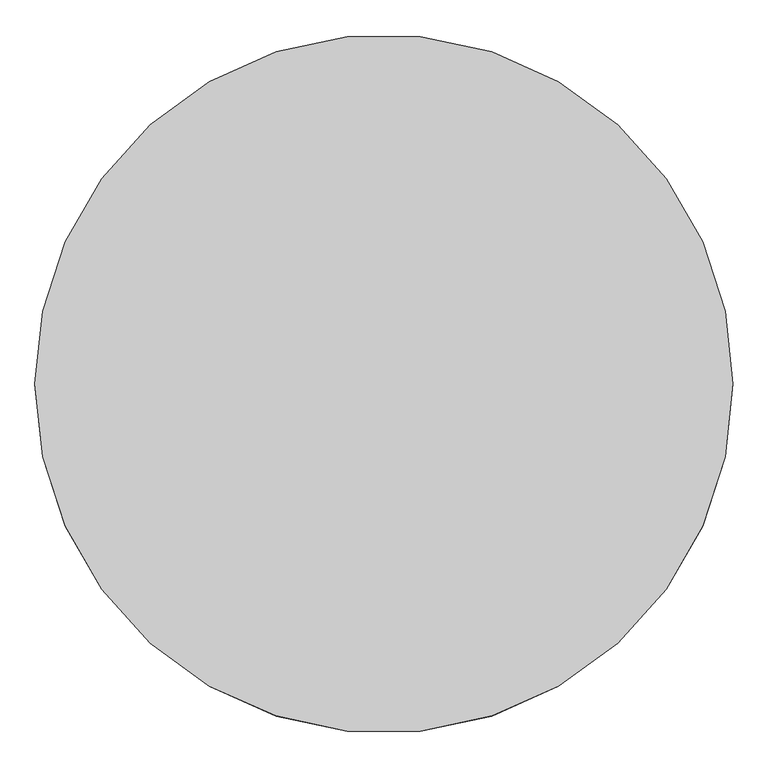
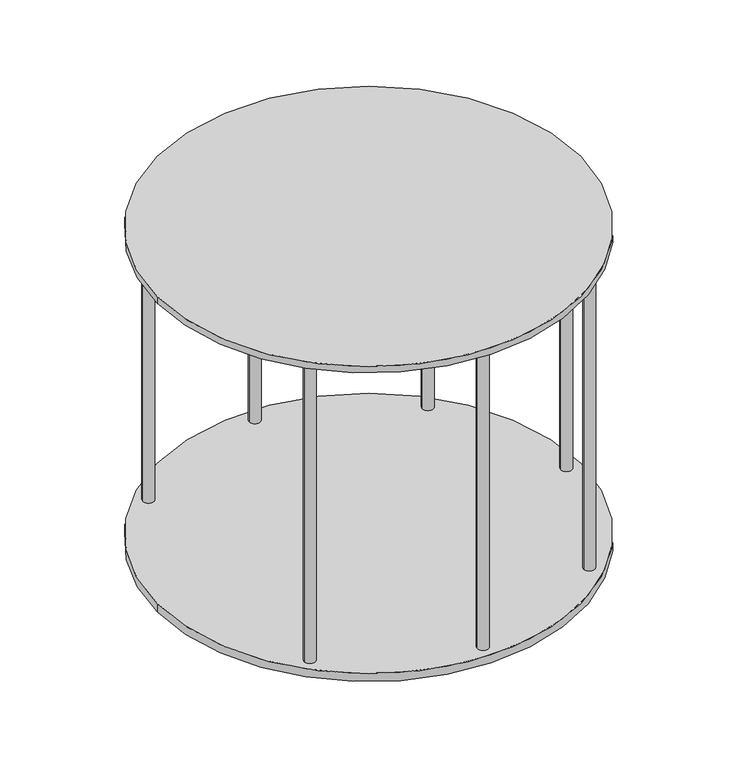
"""IFC4 building model written with IfcOpenShell, lengths in millimetres: proxy geometry, Pavillon, Unterstand, Schuppen und dgl. : Pavillon, Unterstand, Schuppen und dgl.."""

from ifc_helpers import new_model, si_unit, point, frame, frame_2d, origin, origin_with_axes, origin_2d, place, context, project, spatial, circle_curve, trimmed, segment, composite_curve, outline, extrude, source, transform, mapped, element, save


def entourage_0a1c0cec(model_context):
    return source(origin(), model_context, "Body", "SweptSolid", [
        extrude(outline(composite_curve([segment(trimmed(circle_curve(origin_2d(), 1500.0), [point((-1500.0, 0.0))], [point((1500.0, 0.0))], False, "CARTESIAN"), True, "CONTINUOUS"), segment(trimmed(circle_curve(origin_2d(), 1500.0), [point((1500.0, 0.0))], [point((-1500.0, 0.0))], False, "CARTESIAN"), True, "CONTINUOUS")], self_intersect=False)), frame((0.0, 0.0, -60.4662296), z_axis=(0.0, 0.0, 1.0), x_axis=(1.0, 0.0, 0.0)), (0.0, 0.0, 1.0), 60.4662296),
        extrude(outline(composite_curve([segment(trimmed(circle_curve(frame_2d((0.0, -1400.0)), 40.0), [point((-40.0, -1400.0))], [point((40.0, -1400.0))], False, "CARTESIAN"), True, "CONTINUOUS"), segment(trimmed(circle_curve(frame_2d((0.0, -1400.0)), 40.0), [point((40.0, -1400.0))], [point((-40.0, -1400.0))], False, "CARTESIAN"), True, "CONTINUOUS")], self_intersect=False)), origin_with_axes(), (0.0, 0.0, 1.0), 2251.4518572),
        extrude(outline(composite_curve([segment(trimmed(circle_curve(frame_2d((989.9494937, -989.9494937)), 40.0), [point((949.9494937, -989.9494937))], [point((1029.9494937, -989.9494937))], False, "CARTESIAN"), True, "CONTINUOUS"), segment(trimmed(circle_curve(frame_2d((989.9494937, -989.9494937)), 40.0), [point((1029.9494937, -989.9494937))], [point((949.9494937, -989.9494937))], False, "CARTESIAN"), True, "CONTINUOUS")], self_intersect=False)), origin_with_axes(), (0.0, 0.0, 1.0), 2251.4518572),
        extrude(outline(composite_curve([segment(trimmed(circle_curve(frame_2d((1400.0, 0.0)), 40.0), [point((1360.0, 0.0))], [point((1440.0, 0.0))], False, "CARTESIAN"), True, "CONTINUOUS"), segment(trimmed(circle_curve(frame_2d((1400.0, 0.0)), 40.0), [point((1440.0, 0.0))], [point((1360.0, 0.0))], False, "CARTESIAN"), True, "CONTINUOUS")], self_intersect=False)), origin_with_axes(), (0.0, 0.0, 1.0), 2251.4518572),
        extrude(outline(composite_curve([segment(trimmed(circle_curve(frame_2d((989.9494937, 989.9494937)), 40.0), [point((949.9494937, 989.9494937))], [point((1029.9494937, 989.9494937))], False, "CARTESIAN"), True, "CONTINUOUS"), segment(trimmed(circle_curve(frame_2d((989.9494937, 989.9494937)), 40.0), [point((1029.9494937, 989.9494937))], [point((949.9494937, 989.9494937))], False, "CARTESIAN"), True, "CONTINUOUS")], self_intersect=False)), origin_with_axes(), (0.0, 0.0, 1.0), 2251.4518572),
        extrude(outline(composite_curve([segment(trimmed(circle_curve(frame_2d((0.0, 1400.0)), 40.0), [point((-40.0, 1400.0))], [point((40.0, 1400.0))], False, "CARTESIAN"), True, "CONTINUOUS"), segment(trimmed(circle_curve(frame_2d((0.0, 1400.0)), 40.0), [point((40.0, 1400.0))], [point((-40.0, 1400.0))], False, "CARTESIAN"), True, "CONTINUOUS")], self_intersect=False)), origin_with_axes(), (0.0, 0.0, 1.0), 2251.4518572),
        extrude(outline(composite_curve([segment(trimmed(circle_curve(frame_2d((-989.9494937, 989.9494937)), 40.0), [point((-1029.9494937, 989.9494937))], [point((-949.9494937, 989.9494937))], False, "CARTESIAN"), True, "CONTINUOUS"), segment(trimmed(circle_curve(frame_2d((-989.9494937, 989.9494937)), 40.0), [point((-949.9494937, 989.9494937))], [point((-1029.9494937, 989.9494937))], False, "CARTESIAN"), True, "CONTINUOUS")], self_intersect=False)), origin_with_axes(), (0.0, 0.0, 1.0), 2251.4518572),
        extrude(outline(composite_curve([segment(trimmed(circle_curve(frame_2d((-989.9494937, -989.9494937)), 40.0), [point((-1029.9494937, -989.9494937))], [point((-949.9494937, -989.9494937))], False, "CARTESIAN"), True, "CONTINUOUS"), segment(trimmed(circle_curve(frame_2d((-989.9494937, -989.9494937)), 40.0), [point((-949.9494937, -989.9494937))], [point((-1029.9494937, -989.9494937))], False, "CARTESIAN"), True, "CONTINUOUS")], self_intersect=False)), origin_with_axes(), (0.0, 0.0, 1.0), 2251.4518572),
        extrude(outline(composite_curve([segment(trimmed(circle_curve(origin_2d(), 1500.0), [point((-1500.0, 0.0))], [point((1500.0, 0.0))], False, "CARTESIAN"), True, "CONTINUOUS"), segment(trimmed(circle_curve(origin_2d(), 1500.0), [point((1500.0, 0.0))], [point((-1500.0, 0.0))], False, "CARTESIAN"), True, "CONTINUOUS")], self_intersect=False)), frame((0.0, 0.0, 2251.4518572), z_axis=(0.0, 0.0, 1.0), x_axis=(1.0, 0.0, 0.0)), (0.0, 0.0, 1.0), 48.5481428),
    ])


if __name__ == "__main__":
    model = new_model("IFC4")
    model_context = context("Model", 3, world=origin())
    ifc_project = project(units=[si_unit("LENGTHUNIT", "METRE", prefix="MILLI")], contexts=[model_context])
    site = spatial("IfcSite", under=ifc_project)
    building = spatial("IfcBuilding", under=site)
    placement = place(None, origin())
    entourage_shape = entourage_0a1c0cec(model_context)
    element("IfcBuildingElementProxy", 1, Name="Pavillon, Unterstand, Schuppen und dgl. : Pavillon, Unterstand, Schuppen und dgl.", ObjectType="Pavillon, Unterstand, Schuppen und dgl. : Pavillon, Unterstand, Schuppen und dgl.", at=placement, inside=building, context=model_context, shape_type="MappedRepresentation", body=[
        mapped(entourage_shape, transform((0.0, 0.0, 0.0), x_axis=(1.0, 0.0, 0.0), y_axis=(0.0, 1.0, 0.0), z_axis=(0.0, 0.0, 1.0))),
    ])
    save(model, "model.ifc")
